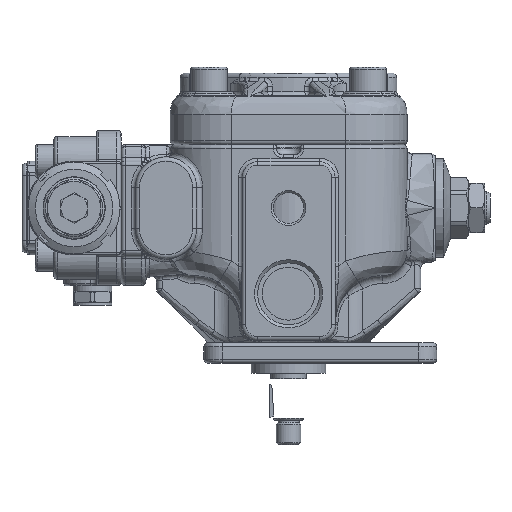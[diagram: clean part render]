
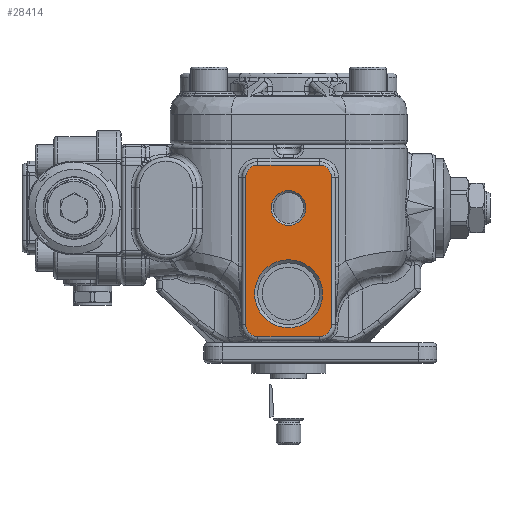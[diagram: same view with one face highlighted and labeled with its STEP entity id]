
A CAD part, left-side view. The second image highlights one B-rep face of the part: STEP entity #28414.
In plain terms, the highlighted planar face has unit normal (-1, 0, 0).
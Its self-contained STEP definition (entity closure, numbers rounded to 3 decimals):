
#1658=FACE_BOUND('',#5500,.T.);
#1659=FACE_BOUND('',#5501,.T.);
#1918=PLANE('',#31091);
#3694=FACE_OUTER_BOUND('',#5499,.T.);
#5499=EDGE_LOOP('',(#21624,#21625,#21626,#21627,#21628,#21629,#21630,#21631));
#5500=EDGE_LOOP('',(#21632));
#5501=EDGE_LOOP('',(#21633));
#7405=CIRCLE('',#31085,16.646);
#7410=CIRCLE('',#31092,6.);
#7411=CIRCLE('',#31093,6.);
#7412=CIRCLE('',#31094,6.);
#7413=CIRCLE('',#31095,6.);
#7414=CIRCLE('',#31096,8.475);
#8894=LINE('',#50537,#10089);
#8895=LINE('',#50541,#10090);
#8896=LINE('',#50545,#10091);
#8897=LINE('',#50549,#10092);
#10089=VECTOR('',#36844,10.);
#10090=VECTOR('',#36847,10.);
#10091=VECTOR('',#36850,10.);
#10092=VECTOR('',#36853,10.);
#11972=VERTEX_POINT('',#50521);
#11977=VERTEX_POINT('',#50535);
#11978=VERTEX_POINT('',#50536);
#11979=VERTEX_POINT('',#50538);
#11980=VERTEX_POINT('',#50540);
#11981=VERTEX_POINT('',#50542);
#11982=VERTEX_POINT('',#50544);
#11983=VERTEX_POINT('',#50546);
#11984=VERTEX_POINT('',#50548);
#11985=VERTEX_POINT('',#50551);
#15324=EDGE_CURVE('',#11972,#11972,#7405,.T.);
#15331=EDGE_CURVE('',#11977,#11978,#8894,.T.);
#15332=EDGE_CURVE('',#11979,#11977,#7410,.T.);
#15333=EDGE_CURVE('',#11980,#11979,#8895,.T.);
#15334=EDGE_CURVE('',#11981,#11980,#7411,.T.);
#15335=EDGE_CURVE('',#11982,#11981,#8896,.T.);
#15336=EDGE_CURVE('',#11983,#11982,#7412,.T.);
#15337=EDGE_CURVE('',#11984,#11983,#8897,.T.);
#15338=EDGE_CURVE('',#11978,#11984,#7413,.T.);
#15339=EDGE_CURVE('',#11985,#11985,#7414,.T.);
#21624=ORIENTED_EDGE('',*,*,#15331,.F.);
#21625=ORIENTED_EDGE('',*,*,#15332,.F.);
#21626=ORIENTED_EDGE('',*,*,#15333,.F.);
#21627=ORIENTED_EDGE('',*,*,#15334,.F.);
#21628=ORIENTED_EDGE('',*,*,#15335,.F.);
#21629=ORIENTED_EDGE('',*,*,#15336,.F.);
#21630=ORIENTED_EDGE('',*,*,#15337,.F.);
#21631=ORIENTED_EDGE('',*,*,#15338,.F.);
#21632=ORIENTED_EDGE('',*,*,#15339,.F.);
#21633=ORIENTED_EDGE('',*,*,#15324,.F.);
#28414=ADVANCED_FACE('',(#3694,#1658,#1659),#1918,.F.);
#31085=AXIS2_PLACEMENT_3D('',#50522,#36828,#36829);
#31091=AXIS2_PLACEMENT_3D('',#50534,#36842,#36843);
#31092=AXIS2_PLACEMENT_3D('',#50539,#36845,#36846);
#31093=AXIS2_PLACEMENT_3D('',#50543,#36848,#36849);
#31094=AXIS2_PLACEMENT_3D('',#50547,#36851,#36852);
#31095=AXIS2_PLACEMENT_3D('',#50550,#36854,#36855);
#31096=AXIS2_PLACEMENT_3D('',#50552,#36856,#36857);
#36828=DIRECTION('center_axis',(-1.,0.,0.));
#36829=DIRECTION('ref_axis',(0.,-1.,0.));
#36842=DIRECTION('center_axis',(1.,0.,0.));
#36843=DIRECTION('ref_axis',(0.,0.,-1.));
#36844=DIRECTION('',(0.,0.,1.));
#36845=DIRECTION('center_axis',(1.,0.,0.));
#36846=DIRECTION('ref_axis',(0.,0.707,-0.707));
#36847=DIRECTION('',(0.,1.,0.));
#36848=DIRECTION('center_axis',(1.,0.,0.));
#36849=DIRECTION('ref_axis',(0.,-0.707,-0.707));
#36850=DIRECTION('',(0.,0.,-1.));
#36851=DIRECTION('center_axis',(1.,0.,0.));
#36852=DIRECTION('ref_axis',(0.,-0.707,0.707));
#36853=DIRECTION('',(0.,-1.,0.));
#36854=DIRECTION('center_axis',(1.,0.,0.));
#36855=DIRECTION('ref_axis',(0.,0.707,0.707));
#36856=DIRECTION('center_axis',(-1.,0.,0.));
#36857=DIRECTION('ref_axis',(0.,-1.,0.));
#50521=CARTESIAN_POINT('',(-76.54,4.642,-22.748));
#50522=CARTESIAN_POINT('Origin',(-76.54,-12.004,-22.748));
#50534=CARTESIAN_POINT('Origin',(-76.54,-12.004,-1.748));
#50535=CARTESIAN_POINT('',(-76.54,8.996,-37.748));
#50536=CARTESIAN_POINT('',(-76.54,8.996,34.252));
#50537=CARTESIAN_POINT('',(-76.54,8.996,16.252));
#50538=CARTESIAN_POINT('',(-76.54,2.996,-43.748));
#50539=CARTESIAN_POINT('Origin',(-76.54,2.996,-37.748));
#50540=CARTESIAN_POINT('',(-76.54,-27.004,-43.748));
#50541=CARTESIAN_POINT('',(-76.54,-4.504,-43.748));
#50542=CARTESIAN_POINT('',(-76.54,-33.004,-37.748));
#50543=CARTESIAN_POINT('Origin',(-76.54,-27.004,-37.748));
#50544=CARTESIAN_POINT('',(-76.54,-33.004,34.252));
#50545=CARTESIAN_POINT('',(-76.54,-33.004,-19.748));
#50546=CARTESIAN_POINT('',(-76.54,-27.004,40.252));
#50547=CARTESIAN_POINT('Origin',(-76.54,-27.004,34.252));
#50548=CARTESIAN_POINT('',(-76.54,2.996,40.252));
#50549=CARTESIAN_POINT('',(-76.54,-19.504,40.252));
#50550=CARTESIAN_POINT('Origin',(-76.54,2.996,34.252));
#50551=CARTESIAN_POINT('',(-76.54,-3.529,19.252));
#50552=CARTESIAN_POINT('Origin',(-76.54,-12.004,19.252));
